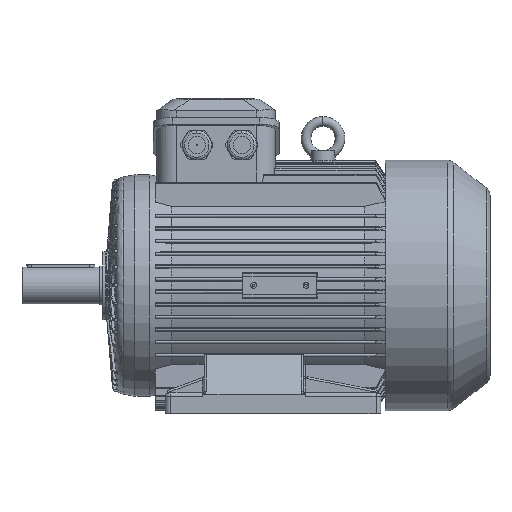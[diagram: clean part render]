
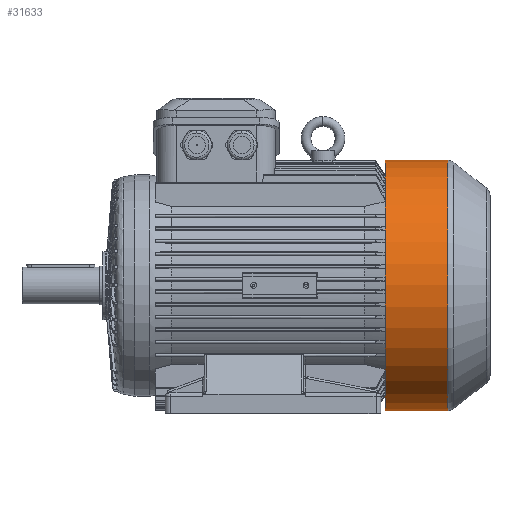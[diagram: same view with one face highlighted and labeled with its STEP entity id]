
A CAD part, top view. The second image highlights one B-rep face of the part: STEP entity #31633.
In plain terms, the highlighted cylindrical face has radius 129 mm (diameter 258 mm), a partial arc.
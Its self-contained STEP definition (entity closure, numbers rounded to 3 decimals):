
#3663 = CARTESIAN_POINT ( 'NONE',  ( 438.239, -129., 0. ) ) ;
#7693 = CARTESIAN_POINT ( 'NONE',  ( 374., -129., 0. ) ) ;
#7868 = DIRECTION ( 'NONE',  ( 1., 0., 0. ) ) ;
#9366 = CARTESIAN_POINT ( 'NONE',  ( 374., 0., 0. ) ) ;
#13791 = CARTESIAN_POINT ( 'NONE',  ( 482., 129., 0. ) ) ;
#15220 = CARTESIAN_POINT ( 'NONE',  ( 482., -129., 0. ) ) ;
#15629 = AXIS2_PLACEMENT_3D ( 'NONE', #69906, #45462, #21823 ) ;
#21823 = DIRECTION ( 'NONE',  ( 0., 1., 0. ) ) ;
#25133 = EDGE_CURVE ( 'NONE', #75123, #63637, #75151, .T. ) ;
#26417 = VERTEX_POINT ( 'NONE', #3663 ) ;
#29478 = EDGE_CURVE ( 'NONE', #63637, #26417, #38800, .T. ) ;
#30300 = AXIS2_PLACEMENT_3D ( 'NONE', #9366, #68287, #33027 ) ;
#31633 = ADVANCED_FACE ( 'NONE', ( #52512 ), #36811, .T. ) ;
#32271 = AXIS2_PLACEMENT_3D ( 'NONE', #57186, #63319, #40154 ) ;
#32419 = CARTESIAN_POINT ( 'NONE',  ( 374., 129., 0. ) ) ;
#33027 = DIRECTION ( 'NONE',  ( 0., 1., 0. ) ) ;
#36811 = CYLINDRICAL_SURFACE ( 'NONE', #15629, 129. ) ;
#38800 = CIRCLE ( 'NONE', #32271, 129. ) ;
#39742 = EDGE_CURVE ( 'NONE', #75123, #41070, #61341, .T. ) ;
#40154 = DIRECTION ( 'NONE',  ( 0., 1., 0. ) ) ;
#41070 = VERTEX_POINT ( 'NONE', #7693 ) ;
#45194 = ORIENTED_EDGE ( 'NONE', *, *, #75177, .T. ) ;
#45462 = DIRECTION ( 'NONE',  ( 1., 0., 0. ) ) ;
#50279 = VECTOR ( 'NONE', #7868, 1000. ) ;
#51772 = VECTOR ( 'NONE', #75149, 1000. ) ;
#52512 = FACE_OUTER_BOUND ( 'NONE', #74076, .T. ) ;
#55172 = CARTESIAN_POINT ( 'NONE',  ( 438.239, 129., 0. ) ) ;
#57186 = CARTESIAN_POINT ( 'NONE',  ( 438.239, 0., 0. ) ) ;
#59273 = ORIENTED_EDGE ( 'NONE', *, *, #39742, .T. ) ;
#60326 = ORIENTED_EDGE ( 'NONE', *, *, #25133, .F. ) ;
#61341 = CIRCLE ( 'NONE', #30300, 129. ) ;
#63319 = DIRECTION ( 'NONE',  ( 1., 0., 0. ) ) ;
#63637 = VERTEX_POINT ( 'NONE', #55172 ) ;
#63718 = LINE ( 'NONE', #15220, #51772 ) ;
#68287 = DIRECTION ( 'NONE',  ( 1., 0., 0. ) ) ;
#69906 = CARTESIAN_POINT ( 'NONE',  ( 482., 0., 0. ) ) ;
#73492 = ORIENTED_EDGE ( 'NONE', *, *, #29478, .F. ) ;
#74076 = EDGE_LOOP ( 'NONE', ( #59273, #45194, #73492, #60326 ) ) ;
#75123 = VERTEX_POINT ( 'NONE', #32419 ) ;
#75149 = DIRECTION ( 'NONE',  ( 1., 0., 0. ) ) ;
#75151 = LINE ( 'NONE', #13791, #50279 ) ;
#75177 = EDGE_CURVE ( 'NONE', #41070, #26417, #63718, .T. ) ;
